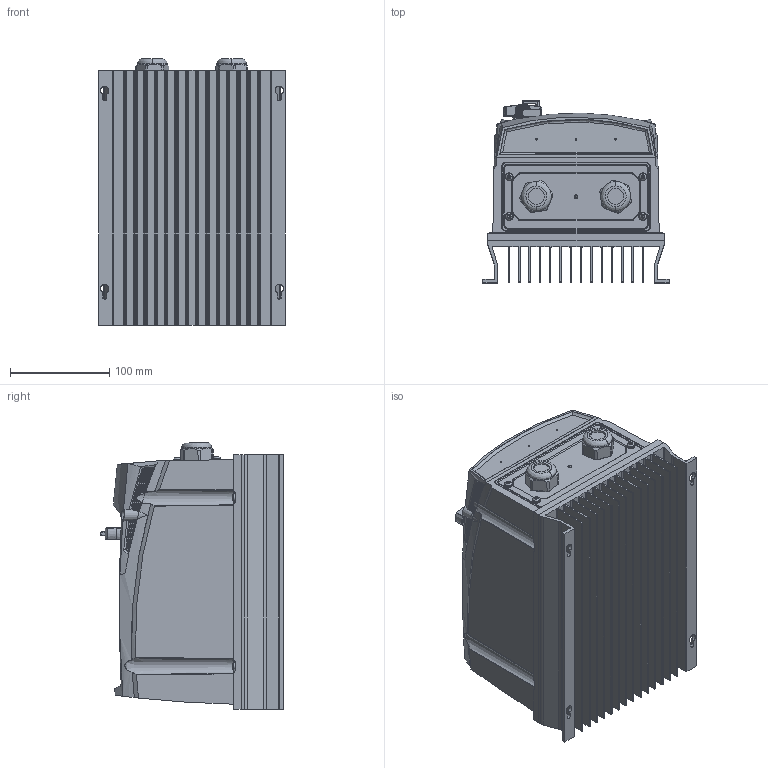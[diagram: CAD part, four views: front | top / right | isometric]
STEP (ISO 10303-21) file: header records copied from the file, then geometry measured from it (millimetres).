
FILE_DESCRIPTION (( 'STEP AP214' ), '1' );
FILE_NAME ('E3 IP66 Size 2 - basic.STEP', '2017-12-20T13:45:49', ( '' ), ( '' ), 'SwSTEP 2.0', 'SolidWorks 2017', '' );
FILE_SCHEMA (( 'AUTOMOTIVE_DESIGN' ));
Products named in the file (1): E3 IP66 Size 2 - basic
Bounding box: 188 x 184.07 x 268.99 mm (x, y, z)
Volume: 5287606.7 mm3; surface area: 539067.2 mm2
Topology: 1 solids, 1 shells, 3208 faces, 9583 edges, 6272 vertices
Faces by surface type: cylinder 1307, bspline 586, sphere 557, plane 438, cone 218, torus 102
Entity records: 213799 total; most frequent: CARTESIAN_POINT 144971, ORIENTED_EDGE 17276, DIRECTION 9743, EDGE_CURVE 8638, VERTEX_POINT 5758, B_SPLINE_CURVE_WITH_KNOTS 5409, AXIS2_PLACEMENT_3D 3985, EDGE_LOOP 3572
